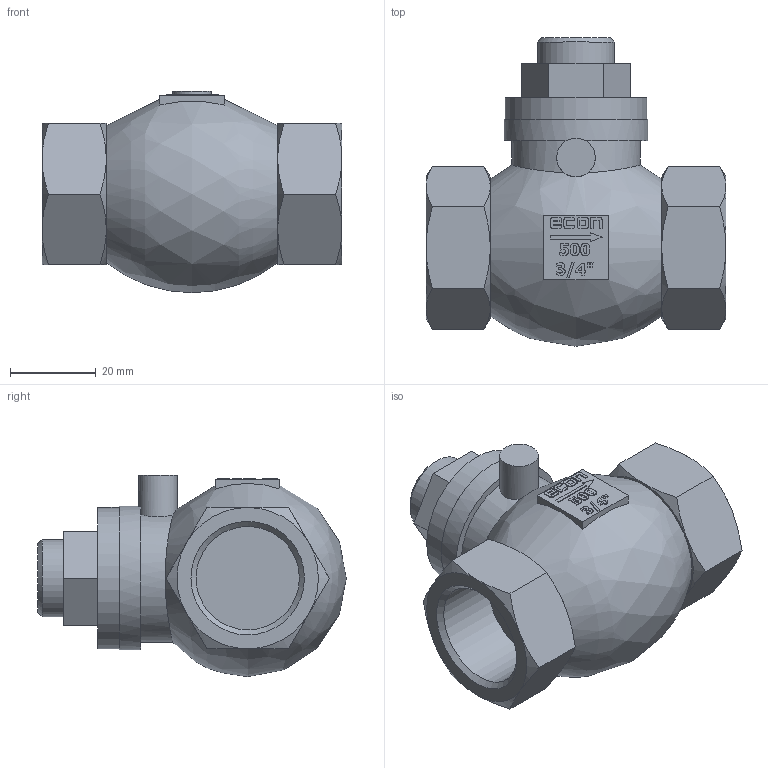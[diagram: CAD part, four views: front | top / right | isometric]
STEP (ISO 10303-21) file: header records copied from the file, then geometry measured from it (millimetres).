
FILE_DESCRIPTION(/* description */ ('Eriks item no: 11811321'),/* implementation_level */ '2;1');
FILE_NAME(/* name */ 'L:\DATA\ENG\Inventor\Econ 3D modellen\terugslagklep\500\500-020-PN16-PTFE.stp',/* time_stamp */ '2023-12-06T15:57:12+01:00',/* author */ ('roger.thijssen'),/* organization */ (''),/* preprocessor_version */ 'ST-DEVELOPER v18',/* originating_system */ 'Autodesk Inventor 2020',/* authorisation */ '');
FILE_SCHEMA (('CONFIG_CONTROL_DESIGN'));
Length unit declared in the file: millimetre
Products named in the file (1): Check valve, 500-020-PN16-PTFE
Bounding box: 70 x 72 x 47 mm (x, y, z)
Volume: 85478.9 mm3; surface area: 16558.8 mm2
Topology: 1 solids, 1 shells, 243 faces, 624 edges, 410 vertices
Faces by surface type: plane 138, bspline 58, cone 27, cylinder 20
Full cylindrical faces by diameter (mm): 9 x1, 18 x1, 24.117 x2, 33 x1, 33.5 x1
Entity records: 7924 total; most frequent: CARTESIAN_POINT 2431, ORIENTED_EDGE 1248, DIRECTION 904, EDGE_CURVE 624, VERTEX_POINT 410, LINE 374, VECTOR 374, EDGE_LOOP 270
